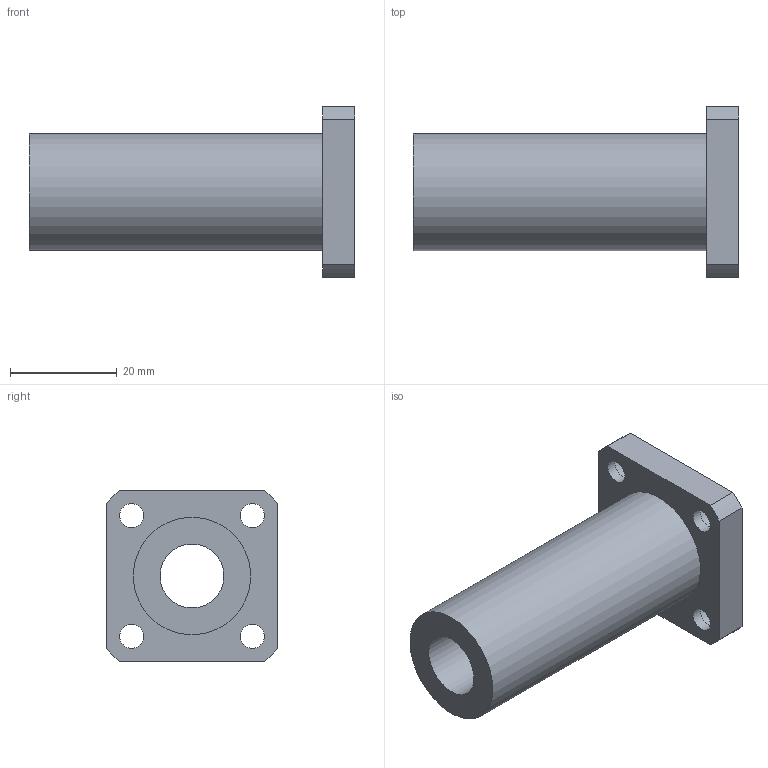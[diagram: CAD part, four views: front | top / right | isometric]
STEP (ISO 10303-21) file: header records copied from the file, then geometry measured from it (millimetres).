
FILE_DESCRIPTION(/* description */ (''),/* implementation_level */ '2;1');
FILE_NAME(/* name */ 'LMEK12LUU',/* time_stamp */ '2019-07-02T15:23:59+02:00',/* author */ ('VĂ©gh MĂˇtĂ©'),/* organization */ ('Bearing Kft'),/* preprocessor_version */ 'ST-DEVELOPER v16.7',/* originating_system */ 'DEX',/* authorisation */ $);
FILE_SCHEMA (('AUTOMOTIVE_DESIGN {1 0 10303 214 3 1 1}'));
Length unit declared in the file: millimetre
Products named in the file (1): LMEK12LUU
Bounding box: 61 x 32 x 32 mm (x, y, z)
Volume: 19240 mm3; surface area: 9017.7 mm2
Topology: 1 solids, 1 shells, 348 faces, 882 edges, 588 vertices
Faces by surface type: plane 273, bspline 58, cylinder 17
Full cylindrical faces by diameter (mm): 4.5 x4, 7.5 x4, 12 x1, 22 x1
Entity records: 12941 total; most frequent: CARTESIAN_POINT 4880, ORIENTED_EDGE 1742, DIRECTION 1371, EDGE_CURVE 871, LINE 721, VECTOR 721, VERTEX_POINT 588, EDGE_LOOP 421
